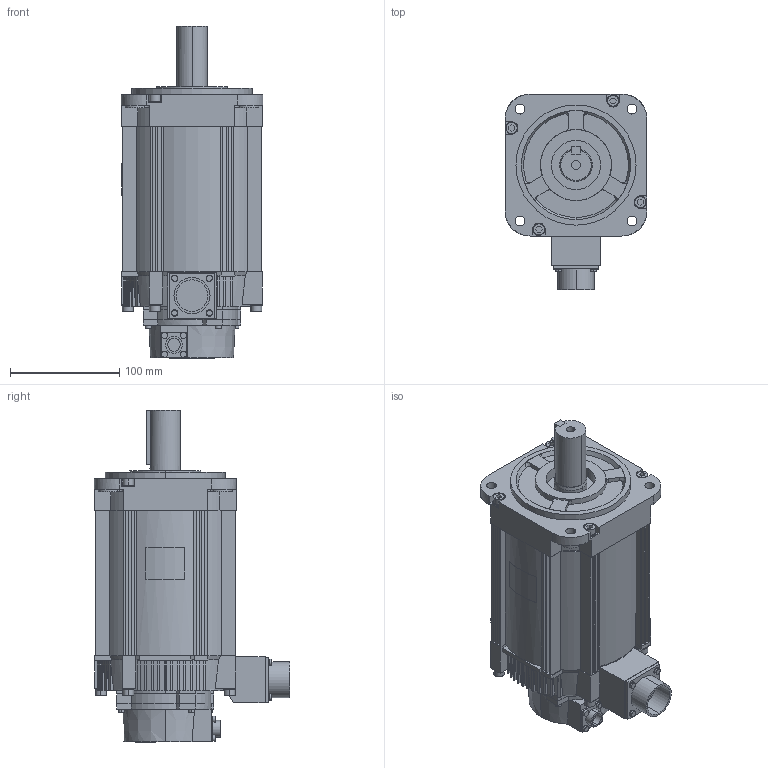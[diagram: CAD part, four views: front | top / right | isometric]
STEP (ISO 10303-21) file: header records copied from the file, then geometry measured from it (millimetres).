
FILE_DESCRIPTION (( 'STEP AP203' ), '1' );
FILE_NAME ('sgm7a_40a6a61.STEP', '2016-11-12T04:47:50', ( '匠エンジニアリング山之内' ), ( 'TAKUMI-Engniaring' ), 'SwSTEP 2.0', 'SolidWorks 2006303', '' );
FILE_SCHEMA (( 'CONFIG_CONTROL_DESIGN' ));
Length unit declared in the file: millimetre
Products named in the file (3): sgm7a_40a6a61_base; sgm7a_40a6a61; sgm7a_40a6a61_key
Assembly tree (2 placements, depth 2):
  sgm7a_40a6a61
    sgm7a_40a6a61_base
    sgm7a_40a6a61_key
Bounding box: 130 x 179 x 304.1 mm (x, y, z)
Volume: 3029680.6 mm3; surface area: 203897.9 mm2
Topology: 2 solids, 2 shells, 723 faces, 1911 edges, 1255 vertices
Faces by surface type: plane 486, cylinder 211, cone 20, bspline 6
Entity records: 23144 total; most frequent: CARTESIAN_POINT 4657, ORIENTED_EDGE 3822, DIRECTION 3774, EDGE_CURVE 1911, AXIS2_PLACEMENT_3D 1285, VERTEX_POINT 1255, VECTOR 1204, LINE 1204
